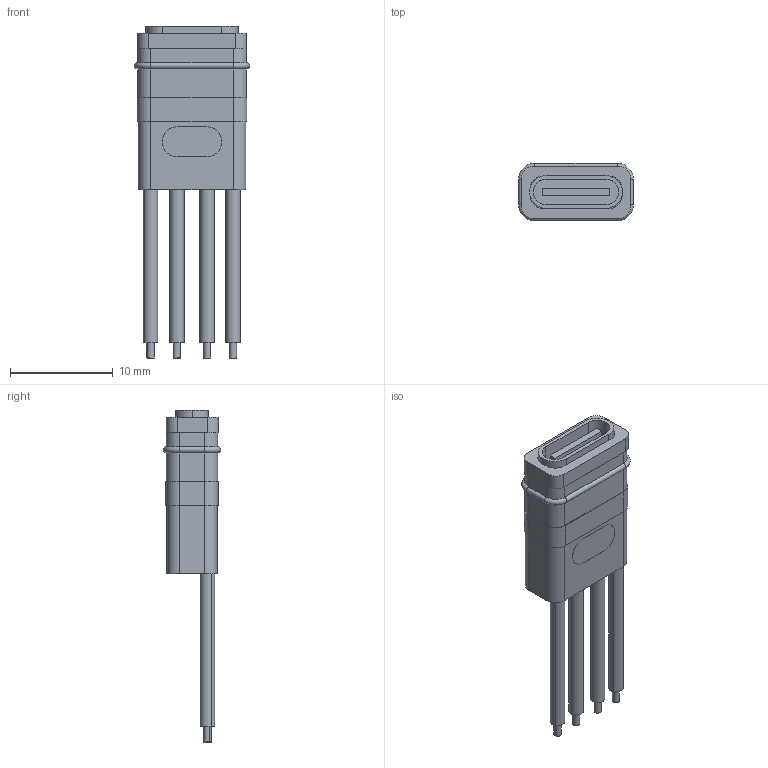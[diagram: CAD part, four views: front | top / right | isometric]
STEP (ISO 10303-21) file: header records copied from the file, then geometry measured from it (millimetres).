
FILE_DESCRIPTION (( 'STEP AP214' ), '1' );
FILE_NAME ('TYPE C 2P注胶W型焊线式母座 CHT-TS023B-H159-P2.STEP', '2026-07-27T04:00:57', ( '' ), ( '' ), 'SwSTEP 2.0', 'SolidWorks 2020', '' );
FILE_SCHEMA (( 'AUTOMOTIVE_DESIGN' ));
Length unit declared in the file: millimetre
Products named in the file (8): TYPE C 2P注胶W型焊线式母座  CHT-TS023B-H159-P2; TYPE C 2P____W____________ ____.step-1.STEP; TYPE C 2P____W____________  __.STEP; TYPE C 2P注胶W型焊线式母座  CHT-TS023B-H159-P2.STEP; TYPE C 2P____W____________ ____.step.STEP; TYPE C 2P____W____________  ____________.STEP; TYPE C 2P____W____________ ____.step-0.STEP; TYPE C 2P____W____________  ____.step.STEP
Assembly tree (7 placements, depth 3):
  TYPE C 2P注胶W型焊线式母座  CHT-TS023B-H159-P2
    TYPE C 2P注胶W型焊线式母座  CHT-TS023B-H159-P2.STEP
      TYPE C 2P____W____________  __.STEP
      TYPE C 2P____W____________  ____________.STEP
      TYPE C 2P____W____________ ____.step.STEP
      TYPE C 2P____W____________ ____.step-0.STEP
      TYPE C 2P____W____________ ____.step-1.STEP
      TYPE C 2P____W____________  ____.step.STEP
Bounding box: 11.18 x 5.58 x 32.24 mm (x, y, z)
Volume: 791.1 mm3; surface area: 1261.9 mm2
Topology: 6 solids, 6 shells, 133 faces, 302 edges, 196 vertices
Faces by surface type: cylinder 66, plane 63, torus 4
Entity records: 5000 total; most frequent: DIRECTION 722, CARTESIAN_POINT 642, ORIENTED_EDGE 604, EDGE_CURVE 302, AXIS2_PLACEMENT_3D 276, VERTEX_POINT 196, LINE 170, VECTOR 170
